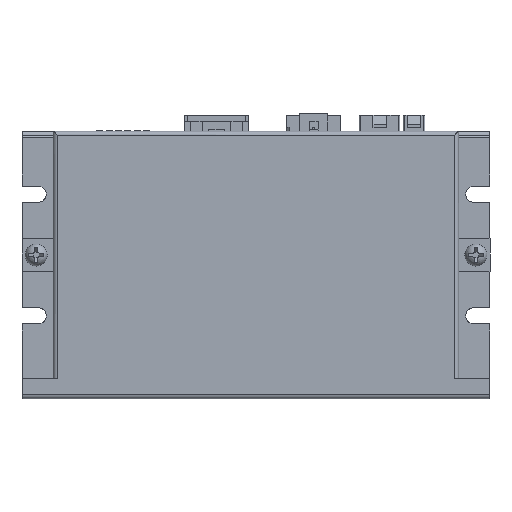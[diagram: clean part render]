
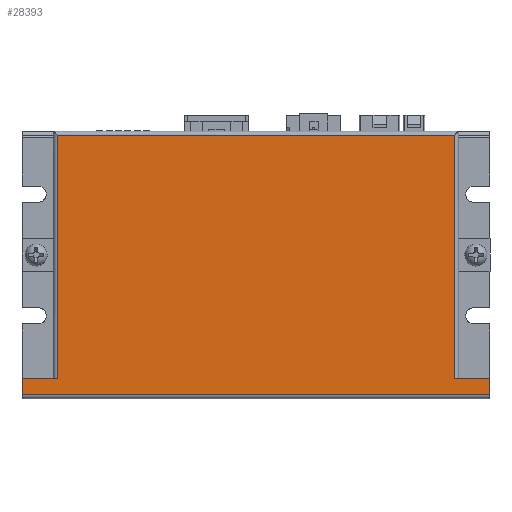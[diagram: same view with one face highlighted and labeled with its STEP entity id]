
A CAD part, top view. The second image highlights one B-rep face of the part: STEP entity #28393.
In plain terms, the highlighted planar face has unit normal (0, 0, 1).
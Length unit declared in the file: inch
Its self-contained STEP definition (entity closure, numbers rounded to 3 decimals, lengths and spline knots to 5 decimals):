
#1818=FACE_OUTER_BOUND('',#3422,.T.);
#3422=EDGE_LOOP('',(#23948,#23949,#23950,#23951,#23952,#23953,#23954,#23955));
#6253=LINE('',#43684,#9919);
#6265=LINE('',#43713,#9931);
#6457=LINE('',#44287,#10123);
#6459=LINE('',#44291,#10125);
#6463=LINE('',#44299,#10129);
#6560=LINE('',#44560,#10226);
#6565=LINE('',#44574,#10231);
#6583=LINE('',#44623,#10249);
#9919=VECTOR('',#35142,0.34449);
#9931=VECTOR('',#35162,0.34449);
#10123=VECTOR('',#35558,4.54724);
#10125=VECTOR('',#35564,0.15748);
#10129=VECTOR('',#35576,0.15748);
#10226=VECTOR('',#35851,2.3622);
#10231=VECTOR('',#35864,2.3622);
#10249=VECTOR('',#35910,3.85827);
#12931=VERTEX_POINT('',#43681);
#12932=VERTEX_POINT('',#43683);
#12939=VERTEX_POINT('',#43699);
#12945=VERTEX_POINT('',#43711);
#13124=VERTEX_POINT('',#44284);
#13125=VERTEX_POINT('',#44286);
#13200=VERTEX_POINT('',#44559);
#13205=VERTEX_POINT('',#44572);
#16437=EDGE_CURVE('',#12932,#12931,#6253,.T.);
#16452=EDGE_CURVE('',#12939,#12945,#6265,.T.);
#16693=EDGE_CURVE('',#13124,#13125,#6457,.T.);
#16696=EDGE_CURVE('',#12932,#13124,#6459,.T.);
#16700=EDGE_CURVE('',#12945,#13125,#6463,.T.);
#16831=EDGE_CURVE('',#13200,#12939,#6560,.T.);
#16839=EDGE_CURVE('',#12931,#13205,#6565,.T.);
#16866=EDGE_CURVE('',#13205,#13200,#6583,.T.);
#23948=ORIENTED_EDGE('',*,*,#16839,.T.);
#23949=ORIENTED_EDGE('',*,*,#16866,.T.);
#23950=ORIENTED_EDGE('',*,*,#16831,.T.);
#23951=ORIENTED_EDGE('',*,*,#16452,.T.);
#23952=ORIENTED_EDGE('',*,*,#16700,.T.);
#23953=ORIENTED_EDGE('',*,*,#16693,.F.);
#23954=ORIENTED_EDGE('',*,*,#16696,.F.);
#23955=ORIENTED_EDGE('',*,*,#16437,.T.);
#26934=PLANE('',#30180);
#28393=ADVANCED_FACE('',(#1818),#26934,.T.);
#30180=AXIS2_PLACEMENT_3D('',#44994,#36224,#36225);
#35142=DIRECTION('',(-1.,0.,0.));
#35162=DIRECTION('',(-1.,0.,0.));
#35558=DIRECTION('',(-1.,0.,0.));
#35564=DIRECTION('',(0.,-1.,0.));
#35576=DIRECTION('',(0.,-1.,0.));
#35851=DIRECTION('',(0.,-1.,0.));
#35864=DIRECTION('',(0.,1.,0.));
#35910=DIRECTION('',(-1.,0.,0.));
#36224=DIRECTION('center_axis',(0.,0.,1.));
#36225=DIRECTION('ref_axis',(1.,0.,0.));
#43681=CARTESIAN_POINT('',(23.40689,6.84921,4.8659));
#43683=CARTESIAN_POINT('',(23.75138,6.84921,4.8659));
#43684=CARTESIAN_POINT('',(23.75138,6.84921,4.8659));
#43699=CARTESIAN_POINT('',(19.54862,6.84921,4.8659));
#43711=CARTESIAN_POINT('',(19.20413,6.84921,4.8659));
#43713=CARTESIAN_POINT('',(23.75138,6.84921,4.8659));
#44284=CARTESIAN_POINT('',(23.75138,6.69173,4.8659));
#44286=CARTESIAN_POINT('',(19.20413,6.69173,4.8659));
#44287=CARTESIAN_POINT('',(23.75138,6.69173,4.8659));
#44291=CARTESIAN_POINT('',(23.75138,6.84921,4.8659));
#44299=CARTESIAN_POINT('',(19.20413,6.84921,4.8659));
#44559=CARTESIAN_POINT('',(19.54862,9.21141,4.8659));
#44560=CARTESIAN_POINT('',(19.54862,6.84921,4.8659));
#44572=CARTESIAN_POINT('',(23.40689,9.21141,4.8659));
#44574=CARTESIAN_POINT('',(23.40689,9.21141,4.8659));
#44623=CARTESIAN_POINT('',(21.47775,9.21141,4.8659));
#44994=CARTESIAN_POINT('Origin',(19.50925,6.84921,4.8659));
